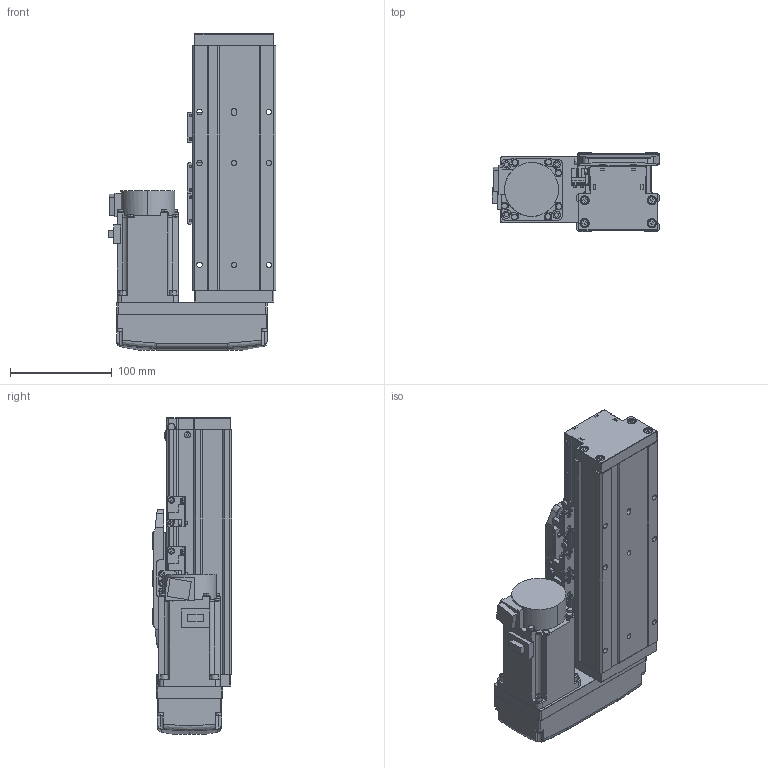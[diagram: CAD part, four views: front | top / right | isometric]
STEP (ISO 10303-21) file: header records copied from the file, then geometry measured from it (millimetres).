
FILE_DESCRIPTION (( 'STEP AP203' ), '1' );
FILE_NAME ('GTH8-50-BL-M20-C4.step', '2022-09-23T01:00:24', ( '微软用户' ), ( '微软中国' ), 'SwSTEP 2.0', 'SolidWorks 2020', '' );
FILE_SCHEMA (( 'CONFIG_CONTROL_DESIGN' ));
Length unit declared in the file: millimetre
Products named in the file (18): GBT96.1-2002 3×0.8; GTH80-022; BTH-M3X5X6; GTH80-001_50; GBT 70.1-M3℅6; hg-kn43j_-s100_; GTH80-003; GBT 70.1-M4×16; CTHA86-015-1_CTHA86-015-2; GTH80-004; GTH80-028; CTHA86-033_M40B; GTH80-006; GTH50-024; GTH8-50-BL-M20-C4; GTH80-013; GTH50-023; GBT 70.3-M3℅6
Assembly tree (57 placements, depth 2):
  GTH8-50-BL-M20-C4
    GTH80-001_50
    GTH80-003
    GTH80-004
    GTH80-006
    GTH80-013
    GBT 70.3-M3℅6  x4
    GTH80-022
    GBT 70.1-M3℅6  x14
    GBT 70.1-M4×16  x8
    GTH80-028  x2
    GTH50-024  x3
    GTH50-023  x3
    GBT96.1-2002 3×0.8  x6
    BTH-M3X5X6  x8
    hg-kn43j_-s100_
    CTHA86-015-1_CTHA86-015-2
    CTHA86-033_M40B
Bounding box: 164.8 x 78 x 311 mm (x, y, z)
Volume: 2031545.8 mm3; surface area: 279336.6 mm2
Topology: 59 solids, 59 shells, 2220 faces, 5115 edges, 3131 vertices
Faces by surface type: plane 1187, cylinder 591, cone 260, torus 166, bspline 8, sphere 8
Entity records: 40182 total; most frequent: CARTESIAN_POINT 7073, DIRECTION 6509, ORIENTED_EDGE 6048, EDGE_CURVE 3024, AXIS2_PLACEMENT_3D 2265, VECTOR 1979, LINE 1979, VERTEX_POINT 1906
